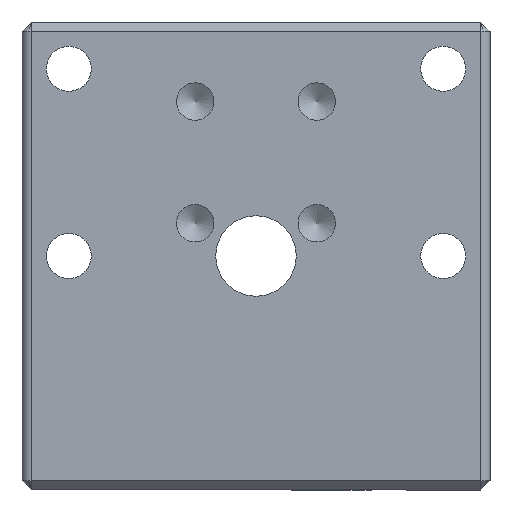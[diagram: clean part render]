
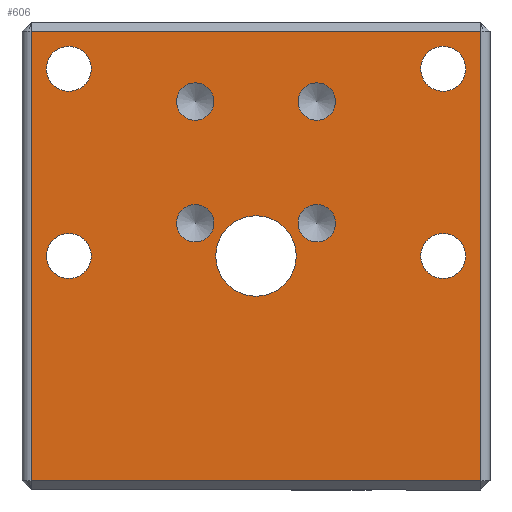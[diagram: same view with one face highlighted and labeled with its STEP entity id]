
A CAD part, front view. The second image highlights one B-rep face of the part: STEP entity #606.
In plain terms, the highlighted planar face has unit normal (0, -1, 0).
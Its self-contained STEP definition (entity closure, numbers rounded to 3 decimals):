
#1 = ORIENTED_EDGE ( 'NONE', *, *, #1392, .F. ) ;
#2 = ORIENTED_EDGE ( 'NONE', *, *, #1393, .F. ) ;
#3 = ORIENTED_EDGE ( 'NONE', *, *, #1395, .F. ) ;
#125 = VERTEX_POINT ( 'NONE', #1276 ) ;
#134 = VERTEX_POINT ( 'NONE', #1290 ) ;
#205 = CARTESIAN_POINT ( 'NONE',  ( -12.5, 0., -12.5 ) ) ;
#208 = PLANE ( 'NONE',  #1056 ) ;
#211 = DIRECTION ( 'NONE',  ( 0., 1., 0. ) ) ;
#212 = DIRECTION ( 'NONE',  ( 0., 0., 1. ) ) ;
#254 = CARTESIAN_POINT ( 'NONE',  ( 12., 0., 12. ) ) ;
#263 = CARTESIAN_POINT ( 'NONE',  ( -12., 0., -12. ) ) ;
#268 = AXIS2_PLACEMENT_3D ( 'NONE', #661, #662, #663 ) ;
#269 = AXIS2_PLACEMENT_3D ( 'NONE', #664, #665, #666 ) ;
#270 = AXIS2_PLACEMENT_3D ( 'NONE', #667, #668, #669 ) ;
#271 = AXIS2_PLACEMENT_3D ( 'NONE', #670, #671, #672 ) ;
#272 = AXIS2_PLACEMENT_3D ( 'NONE', #674, #675, #676 ) ;
#273 = AXIS2_PLACEMENT_3D ( 'NONE', #677, #678, #679 ) ;
#274 = AXIS2_PLACEMENT_3D ( 'NONE', #681, #682, #683 ) ;
#275 = AXIS2_PLACEMENT_3D ( 'NONE', #684, #685, #686 ) ;
#276 = AXIS2_PLACEMENT_3D ( 'NONE', #690, #691, #692 ) ;
#317 = CARTESIAN_POINT ( 'NONE',  ( -12.5, 0., -12. ) ) ;
#318 = DIRECTION ( 'NONE',  ( 1., 0., 0. ) ) ;
#446 = VERTEX_POINT ( 'NONE', #741 ) ;
#447 = VERTEX_POINT ( 'NONE', #740 ) ;
#448 = VERTEX_POINT ( 'NONE', #739 ) ;
#449 = VERTEX_POINT ( 'NONE', #738 ) ;
#450 = VERTEX_POINT ( 'NONE', #737 ) ;
#451 = VERTEX_POINT ( 'NONE', #736 ) ;
#452 = VERTEX_POINT ( 'NONE', #735 ) ;
#453 = VERTEX_POINT ( 'NONE', #734 ) ;
#454 = VERTEX_POINT ( 'NONE', #733 ) ;
#489 = VECTOR ( 'NONE', #694, 1000. ) ;
#490 = LINE ( 'NONE', #680, #489 ) ;
#491 = VECTOR ( 'NONE', #687, 1000. ) ;
#493 = CIRCLE ( 'NONE', #275, 1. ) ;
#494 = CIRCLE ( 'NONE', #274, 1. ) ;
#495 = CIRCLE ( 'NONE', #273, 1. ) ;
#496 = CIRCLE ( 'NONE', #272, 1.2 ) ;
#497 = CIRCLE ( 'NONE', #271, 1.2 ) ;
#498 = CIRCLE ( 'NONE', #270, 1.2 ) ;
#499 = CIRCLE ( 'NONE', #269, 1.2 ) ;
#500 = LINE ( 'NONE', #673, #491 ) ;
#501 = VECTOR ( 'NONE', #660, 1000. ) ;
#502 = CIRCLE ( 'NONE', #276, 1. ) ;
#503 = LINE ( 'NONE', #655, #501 ) ;
#504 = CIRCLE ( 'NONE', #268, 2.15 ) ;
#606 = ADVANCED_FACE ( 'NONE', ( #927, #923, #926, #924, #925, #922, #921, #920, #872, #871 ), #208, .F. ) ;
#655 = CARTESIAN_POINT ( 'NONE',  ( 12., 0., -12.5 ) ) ;
#660 = DIRECTION ( 'NONE',  ( 0., 0., 1. ) ) ;
#661 = CARTESIAN_POINT ( 'NONE',  ( 0., 0., 0. ) ) ;
#662 = DIRECTION ( 'NONE',  ( 0., -1., 0. ) ) ;
#663 = DIRECTION ( 'NONE',  ( 0., 0., -1. ) ) ;
#664 = CARTESIAN_POINT ( 'NONE',  ( 10., 0., 0. ) ) ;
#665 = DIRECTION ( 'NONE',  ( 0., -1., 0. ) ) ;
#666 = DIRECTION ( 'NONE',  ( 0., 0., -1. ) ) ;
#667 = CARTESIAN_POINT ( 'NONE',  ( -10., 0., 0. ) ) ;
#668 = DIRECTION ( 'NONE',  ( 0., -1., 0. ) ) ;
#669 = DIRECTION ( 'NONE',  ( 0., 0., -1. ) ) ;
#670 = CARTESIAN_POINT ( 'NONE',  ( -10., 0., 10. ) ) ;
#671 = DIRECTION ( 'NONE',  ( 0., -1., 0. ) ) ;
#672 = DIRECTION ( 'NONE',  ( 0., 0., -1. ) ) ;
#673 = CARTESIAN_POINT ( 'NONE',  ( -12.5, 0., 12. ) ) ;
#674 = CARTESIAN_POINT ( 'NONE',  ( 10., 0., 10. ) ) ;
#675 = DIRECTION ( 'NONE',  ( 0., -1., 0. ) ) ;
#676 = DIRECTION ( 'NONE',  ( 0., 0., -1. ) ) ;
#677 = CARTESIAN_POINT ( 'NONE',  ( -3.25, 0., 1.75 ) ) ;
#678 = DIRECTION ( 'NONE',  ( 0., -1., 0. ) ) ;
#679 = DIRECTION ( 'NONE',  ( 0., 0., -1. ) ) ;
#680 = CARTESIAN_POINT ( 'NONE',  ( -12., 0., -12.5 ) ) ;
#681 = CARTESIAN_POINT ( 'NONE',  ( 3.25, 0., 1.75 ) ) ;
#682 = DIRECTION ( 'NONE',  ( 0., -1., 0. ) ) ;
#683 = DIRECTION ( 'NONE',  ( 0., 0., -1. ) ) ;
#684 = CARTESIAN_POINT ( 'NONE',  ( 3.25, 0., 8.25 ) ) ;
#685 = DIRECTION ( 'NONE',  ( 0., -1., 0. ) ) ;
#686 = DIRECTION ( 'NONE',  ( 0., 0., -1. ) ) ;
#687 = DIRECTION ( 'NONE',  ( -1., 0., 0. ) ) ;
#690 = CARTESIAN_POINT ( 'NONE',  ( -3.25, 0., 8.25 ) ) ;
#691 = DIRECTION ( 'NONE',  ( 0., -1., 0. ) ) ;
#692 = DIRECTION ( 'NONE',  ( 0., 0., -1. ) ) ;
#694 = DIRECTION ( 'NONE',  ( 0., 0., -1. ) ) ;
#733 = CARTESIAN_POINT ( 'NONE',  ( 0., 0., -2.15 ) ) ;
#734 = CARTESIAN_POINT ( 'NONE',  ( 10., 0., -1.2 ) ) ;
#735 = CARTESIAN_POINT ( 'NONE',  ( -10., 0., -1.2 ) ) ;
#736 = CARTESIAN_POINT ( 'NONE',  ( -10., 0., 8.8 ) ) ;
#737 = CARTESIAN_POINT ( 'NONE',  ( 10., 0., 8.8 ) ) ;
#738 = CARTESIAN_POINT ( 'NONE',  ( -3.25, 0., 0.75 ) ) ;
#739 = CARTESIAN_POINT ( 'NONE',  ( 3.25, 0., 0.75 ) ) ;
#740 = CARTESIAN_POINT ( 'NONE',  ( 3.25, 0., 7.25 ) ) ;
#741 = CARTESIAN_POINT ( 'NONE',  ( -3.25, 0., 7.25 ) ) ;
#804 = VECTOR ( 'NONE', #318, 1000. ) ;
#808 = LINE ( 'NONE', #317, #804 ) ;
#871 = FACE_OUTER_BOUND ( 'NONE', #1133, .T. ) ;
#872 = FACE_BOUND ( 'NONE', #1128, .T. ) ;
#920 = FACE_BOUND ( 'NONE', #1188, .T. ) ;
#921 = FACE_BOUND ( 'NONE', #1186, .T. ) ;
#922 = FACE_BOUND ( 'NONE', #1184, .T. ) ;
#923 = FACE_BOUND ( 'NONE', #1168, .T. ) ;
#924 = FACE_BOUND ( 'NONE', #1177, .T. ) ;
#925 = FACE_BOUND ( 'NONE', #1154, .T. ) ;
#926 = FACE_BOUND ( 'NONE', #1150, .T. ) ;
#927 = FACE_BOUND ( 'NONE', #1165, .T. ) ;
#1056 = AXIS2_PLACEMENT_3D ( 'NONE', #205, #211, #212 ) ;
#1128 = EDGE_LOOP ( 'NONE', ( #1248 ) ) ;
#1133 = EDGE_LOOP ( 'NONE', ( #1250, #1243, #1242, #1244 ) ) ;
#1150 = EDGE_LOOP ( 'NONE', ( #1 ) ) ;
#1154 = EDGE_LOOP ( 'NONE', ( #1245 ) ) ;
#1165 = EDGE_LOOP ( 'NONE', ( #3 ) ) ;
#1168 = EDGE_LOOP ( 'NONE', ( #2 ) ) ;
#1177 = EDGE_LOOP ( 'NONE', ( #1260 ) ) ;
#1184 = EDGE_LOOP ( 'NONE', ( #1246 ) ) ;
#1186 = EDGE_LOOP ( 'NONE', ( #1247 ) ) ;
#1188 = EDGE_LOOP ( 'NONE', ( #1249 ) ) ;
#1224 = VERTEX_POINT ( 'NONE', #254 ) ;
#1242 = ORIENTED_EDGE ( 'NONE', *, *, #1397, .T. ) ;
#1243 = ORIENTED_EDGE ( 'NONE', *, *, #1394, .T. ) ;
#1244 = ORIENTED_EDGE ( 'NONE', *, *, #1318, .T. ) ;
#1245 = ORIENTED_EDGE ( 'NONE', *, *, #1390, .F. ) ;
#1246 = ORIENTED_EDGE ( 'NONE', *, *, #1389, .F. ) ;
#1247 = ORIENTED_EDGE ( 'NONE', *, *, #1388, .F. ) ;
#1248 = ORIENTED_EDGE ( 'NONE', *, *, #1386, .F. ) ;
#1249 = ORIENTED_EDGE ( 'NONE', *, *, #1387, .F. ) ;
#1250 = ORIENTED_EDGE ( 'NONE', *, *, #1385, .T. ) ;
#1260 = ORIENTED_EDGE ( 'NONE', *, *, #1391, .F. ) ;
#1265 = VERTEX_POINT ( 'NONE', #263 ) ;
#1276 = CARTESIAN_POINT ( 'NONE',  ( -12., 0., 12. ) ) ;
#1290 = CARTESIAN_POINT ( 'NONE',  ( 12., 0., -12. ) ) ;
#1318 = EDGE_CURVE ( 'NONE', #1265, #134, #808, .T. ) ;
#1385 = EDGE_CURVE ( 'NONE', #134, #1224, #503, .T. ) ;
#1386 = EDGE_CURVE ( 'NONE', #454, #454, #504, .T. ) ;
#1387 = EDGE_CURVE ( 'NONE', #453, #453, #499, .T. ) ;
#1388 = EDGE_CURVE ( 'NONE', #452, #452, #498, .T. ) ;
#1389 = EDGE_CURVE ( 'NONE', #451, #451, #497, .T. ) ;
#1390 = EDGE_CURVE ( 'NONE', #450, #450, #496, .T. ) ;
#1391 = EDGE_CURVE ( 'NONE', #449, #449, #495, .T. ) ;
#1392 = EDGE_CURVE ( 'NONE', #448, #448, #494, .T. ) ;
#1393 = EDGE_CURVE ( 'NONE', #447, #447, #493, .T. ) ;
#1394 = EDGE_CURVE ( 'NONE', #1224, #125, #500, .T. ) ;
#1395 = EDGE_CURVE ( 'NONE', #446, #446, #502, .T. ) ;
#1397 = EDGE_CURVE ( 'NONE', #125, #1265, #490, .T. ) ;
